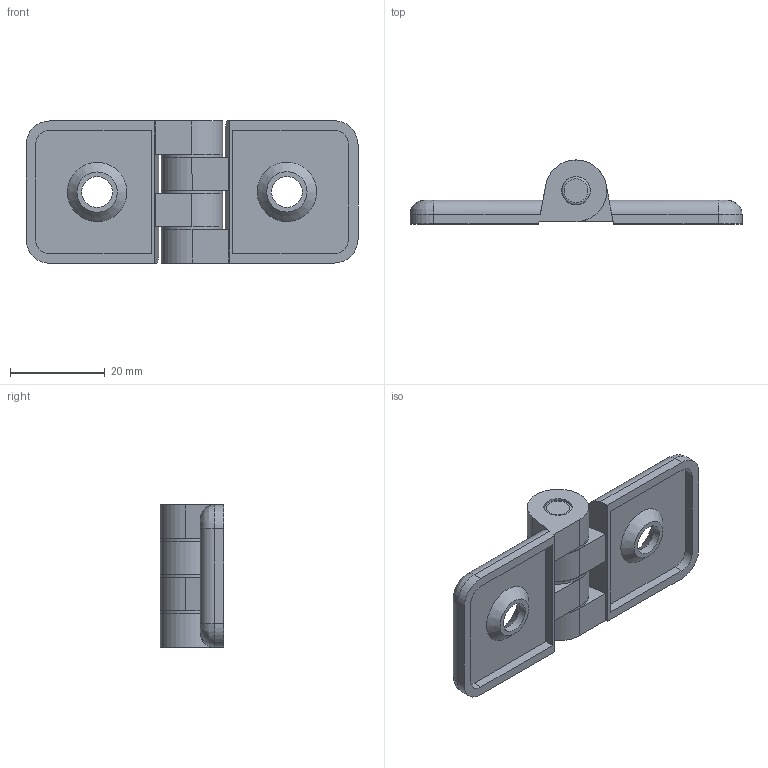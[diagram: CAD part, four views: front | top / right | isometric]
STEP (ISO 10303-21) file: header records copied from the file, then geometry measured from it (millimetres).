
FILE_DESCRIPTION(/* description */ (''),/* implementation_level */ '2;1');
FILE_NAME(/* name */ '\\NAS\db20\HC3070\DR_HC3070.stp',/* time_stamp */ '2018-08-10T18:23:02+09:00',/* author */ ('user'),/* organization */ (''),/* preprocessor_version */ 'ST-DEVELOPER v15.6',/* originating_system */ 'Autodesk Inventor 2015',/* authorisation */ '');
FILE_SCHEMA (('CONFIG_CONTROL_DESIGN','AUTOMOTIVE_DESIGN { 1 0 10303 214 3 1 1 }'));
Length unit declared in the file: millimetre
Products named in the file (4): DR_HC3070; DR_HC3070-PIN; DR_HC3070-WASHER
Bounding box: 70 x 13.48 x 30.05 mm (x, y, z)
Volume: 9411.3 mm3; surface area: 8428.7 mm2
Topology: 6 solids, 6 shells, 91 faces, 209 edges, 134 vertices
Faces by surface type: plane 50, cylinder 31, cone 4, bspline 4, torus 2
Full cylindrical faces by diameter (mm): 6 x5, 6.2 x3, 6.5 x2, 12.9 x3
Entity records: 1390 total; most frequent: DIRECTION 239, CARTESIAN_POINT 232, ORIENTED_EDGE 188, EDGE_CURVE 94, AXIS2_PLACEMENT_3D 91, EDGE_LOOP 66, VERTEX_POINT 66, LINE 57
